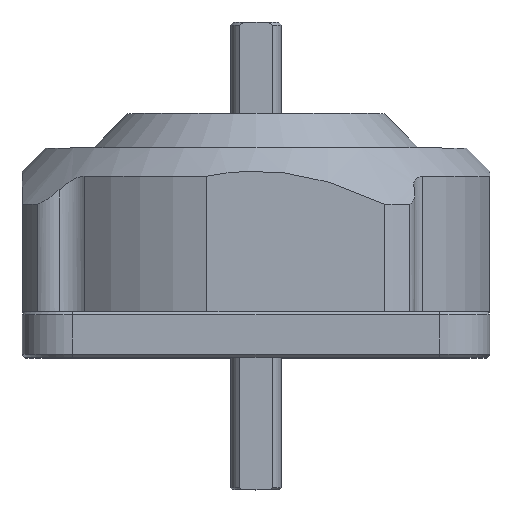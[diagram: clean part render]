
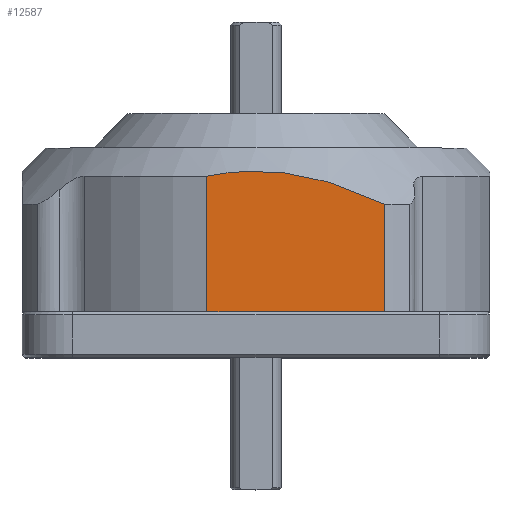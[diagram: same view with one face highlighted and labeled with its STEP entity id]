
A CAD part, top view. The second image highlights one B-rep face of the part: STEP entity #12587.
In plain terms, the highlighted planar face has unit normal (0, 0, 1) as drawn and (0, -1, 0) by its records, which use the part's own axes.
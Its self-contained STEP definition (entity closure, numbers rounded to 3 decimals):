
#263 = CARTESIAN_POINT ( 'NONE',  ( 0.036, -23., 13.803 ) ) ;
#362 = LINE ( 'NONE', #18339, #15091 ) ;
#930 = EDGE_CURVE ( 'NONE', #5924, #4622, #362, .T. ) ;
#3132 = FACE_OUTER_BOUND ( 'NONE', #11434, .T. ) ;
#3637 = EDGE_CURVE ( 'NONE', #19333, #5924, #6221, .T. ) ;
#4622 = VERTEX_POINT ( 'NONE', #22417 ) ;
#4939 = CARTESIAN_POINT ( 'NONE',  ( -23., -23., 20. ) ) ;
#5072 = DIRECTION ( 'NONE',  ( 0., 0., 1. ) ) ;
#5104 = VECTOR ( 'NONE', #7160, 1000. ) ;
#5387 = ORIENTED_EDGE ( 'NONE', *, *, #23676, .T. ) ;
#5891 = CARTESIAN_POINT ( 'NONE',  ( 12.652, -23., 0. ) ) ;
#5924 = VERTEX_POINT ( 'NONE', #24403 ) ;
#6202 = CARTESIAN_POINT ( 'NONE',  ( 5.659, -23., 13.159 ) ) ;
#6221 = B_SPLINE_CURVE_WITH_KNOTS ( 'NONE', 3,
 ( #7660, #9965, #11651, #20044, #6202, #17987, #15529, #8152, #13588, #23927, #263, #23804, #7910, #15782 ),
 .UNSPECIFIED., .F., .F.,
 ( 4, 2, 2, 2, 2, 2, 4 ),
 ( 0.001, 0.005, 0.01, 0.012, 0.013, 0.014, 0.019 ),
 .UNSPECIFIED. ) ;
#6389 = CARTESIAN_POINT ( 'NONE',  ( 12.652, -23., 30. ) ) ;
#7145 = ORIENTED_EDGE ( 'NONE', *, *, #930, .T. ) ;
#7160 = DIRECTION ( 'NONE',  ( 1., 0., 0. ) ) ;
#7660 = CARTESIAN_POINT ( 'NONE',  ( 12.652, -23., 10.55 ) ) ;
#7910 = CARTESIAN_POINT ( 'NONE',  ( -3.343, -23., 13.603 ) ) ;
#8152 = CARTESIAN_POINT ( 'NONE',  ( 1.554, -23., 13.751 ) ) ;
#9397 = ORIENTED_EDGE ( 'NONE', *, *, #3637, .T. ) ;
#9965 = CARTESIAN_POINT ( 'NONE',  ( 11.294, -23., 11.204 ) ) ;
#10003 = CARTESIAN_POINT ( 'NONE',  ( 12.652, -23., 10.55 ) ) ;
#10781 = VERTEX_POINT ( 'NONE', #5891 ) ;
#11143 = PLANE ( 'NONE',  #11237 ) ;
#11237 = AXIS2_PLACEMENT_3D ( 'NONE', #4939, #20723, #5072 ) ;
#11434 = EDGE_LOOP ( 'NONE', ( #9397, #7145, #5387, #20701 ) ) ;
#11651 = CARTESIAN_POINT ( 'NONE',  ( 9.914, -23., 11.789 ) ) ;
#12587 = ADVANCED_FACE ( 'NONE', ( #3132 ), #11143, .F. ) ;
#13093 = LINE ( 'NONE', #24876, #5104 ) ;
#13588 = CARTESIAN_POINT ( 'NONE',  ( 1.173, -23., 13.773 ) ) ;
#15091 = VECTOR ( 'NONE', #22343, 1000. ) ;
#15289 = EDGE_CURVE ( 'NONE', #19333, #10781, #20088, .T. ) ;
#15529 = CARTESIAN_POINT ( 'NONE',  ( 2.694, -23., 13.655 ) ) ;
#15782 = CARTESIAN_POINT ( 'NONE',  ( -4.822, -23., 13.3 ) ) ;
#17987 = CARTESIAN_POINT ( 'NONE',  ( 3.442, -23., 13.555 ) ) ;
#18339 = CARTESIAN_POINT ( 'NONE',  ( -4.822, -23., 30. ) ) ;
#19333 = VERTEX_POINT ( 'NONE', #10003 ) ;
#20044 = CARTESIAN_POINT ( 'NONE',  ( 7.097, -23., 12.766 ) ) ;
#20088 = LINE ( 'NONE', #6389, #21860 ) ;
#20701 = ORIENTED_EDGE ( 'NONE', *, *, #15289, .F. ) ;
#20723 = DIRECTION ( 'NONE',  ( 0., 1., 0. ) ) ;
#21860 = VECTOR ( 'NONE', #24503, 1000. ) ;
#22343 = DIRECTION ( 'NONE',  ( 0., 0., -1. ) ) ;
#22417 = CARTESIAN_POINT ( 'NONE',  ( -4.822, -23., 0. ) ) ;
#23676 = EDGE_CURVE ( 'NONE', #4622, #10781, #13093, .T. ) ;
#23804 = CARTESIAN_POINT ( 'NONE',  ( -1.851, -23., 13.775 ) ) ;
#23927 = CARTESIAN_POINT ( 'NONE',  ( 0.414, -23., 13.799 ) ) ;
#24403 = CARTESIAN_POINT ( 'NONE',  ( -4.822, -23., 13.3 ) ) ;
#24503 = DIRECTION ( 'NONE',  ( 0., 0., -1. ) ) ;
#24876 = CARTESIAN_POINT ( 'NONE',  ( -23., -23., 0. ) ) ;
